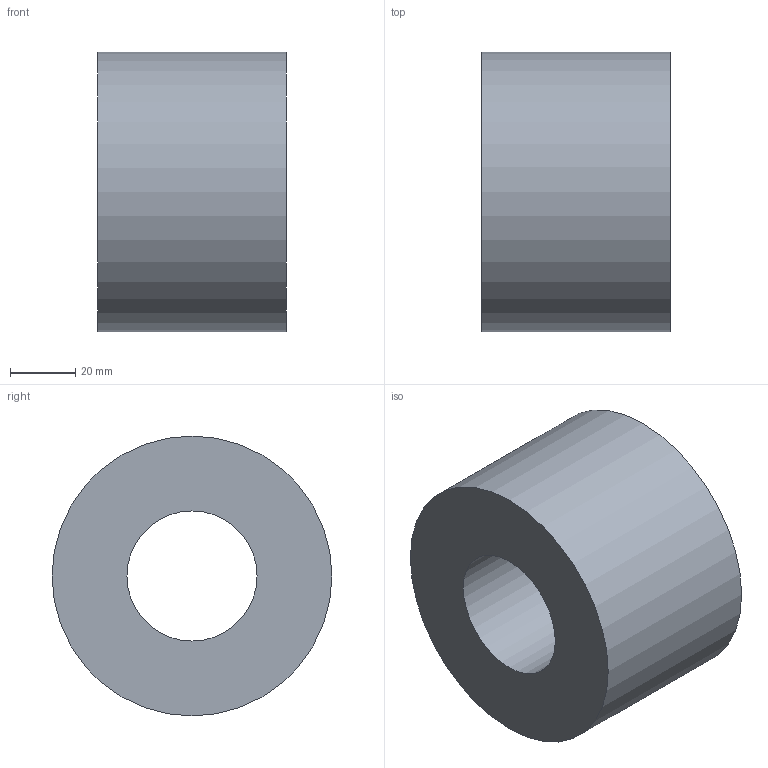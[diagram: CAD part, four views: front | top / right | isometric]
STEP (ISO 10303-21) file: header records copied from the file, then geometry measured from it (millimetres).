
FILE_DESCRIPTION(('Open CASCADE Model'),'2;1');
FILE_NAME('Open CASCADE Shape Model','2026-10-08T06:53:14',('Author'),( 'Open CASCADE'),'Open CASCADE STEP processor 7.8','Open CASCADE 7.8' ,'Unknown');
FILE_SCHEMA(('AUTOMOTIVE_DESIGN { 1 0 10303 214 1 1 1 1 }'));
Length unit declared in the file: millimetre
Products named in the file (1): Open CASCADE STEP translator 7.8 20
Bounding box: 58 x 86 x 86 mm (x, y, z)
Volume: 264025.7 mm3; surface area: 32063.1 mm2
Topology: 1 solids, 1 shells, 4 faces, 6 edges, 4 vertices
Faces by surface type: cylinder 2, plane 2
Full cylindrical faces by diameter (mm): 40 x1, 86 x1
Entity records: 186 total; most frequent: DIRECTION 32, CARTESIAN_POINT 27, ORIENTED_EDGE 12, PCURVE 12, DEFINITIONAL_REPRESENTATION 12, LINE 10, VECTOR 10, AXIS2_PLACEMENT_3D 9
